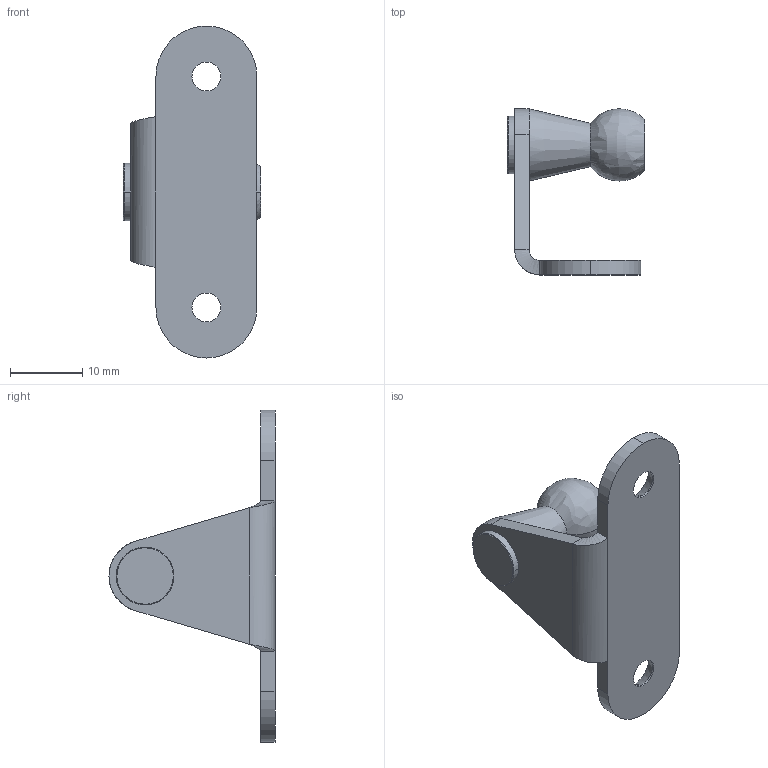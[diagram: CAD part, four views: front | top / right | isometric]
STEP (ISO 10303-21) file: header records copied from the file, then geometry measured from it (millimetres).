
FILE_DESCRIPTION (( 'STEP AP214' ), '1' );
FILE_NAME ('15.BVS-042L.STEP', '2017-10-09T08:13:11', ( '' ), ( '' ), 'SwSTEP 2.0', 'SolidWorks 2016', '' );
FILE_SCHEMA (( 'AUTOMOTIVE_DESIGN' ));
Length unit declared in the file: millimetre
Products named in the file (1): 15.BVS-042L
Bounding box: 19 x 23 x 46 mm (x, y, z)
Volume: 2753.3 mm3; surface area: 2626.1 mm2
Topology: 1 solids, 1 shells, 38 faces, 97 edges, 58 vertices
Faces by surface type: cylinder 15, plane 11, cone 8, bspline 4
Entity records: 1599 total; most frequent: CARTESIAN_POINT 684, ORIENTED_EDGE 186, DIRECTION 177, EDGE_CURVE 93, AXIS2_PLACEMENT_3D 67, VERTEX_POINT 58, LINE 43, EDGE_LOOP 43
